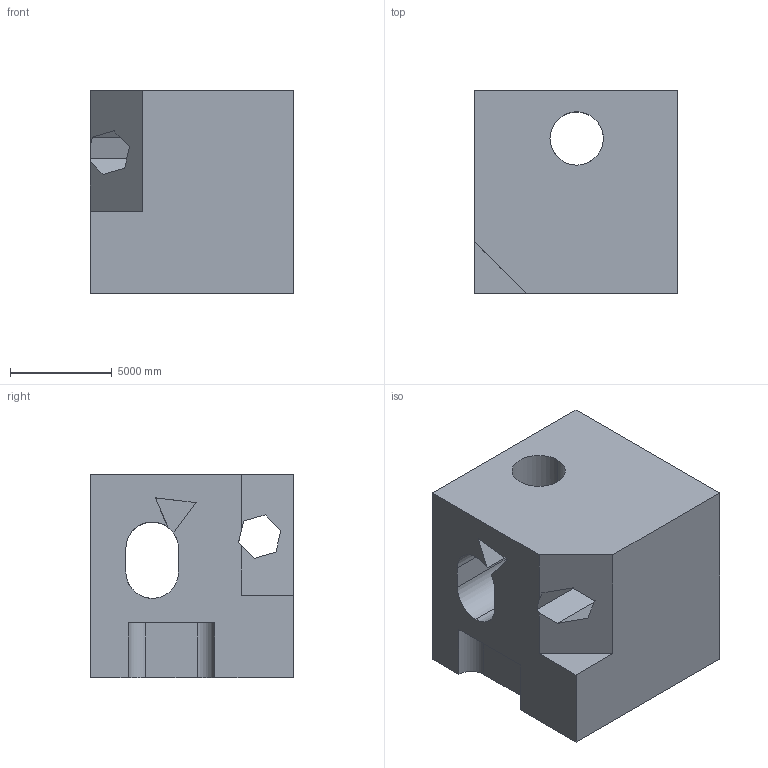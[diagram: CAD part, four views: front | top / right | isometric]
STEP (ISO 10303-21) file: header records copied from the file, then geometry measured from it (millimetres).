
FILE_DESCRIPTION (( 'STEP AP203' ), '1' );
FILE_NAME ('560.STEP', '2022-07-29T11:49:26', ( 'user' ), ( '' ), 'SwSTEP 2.0', 'SolidWorks 2021', '' );
FILE_SCHEMA (( 'CONFIG_CONTROL_DESIGN' ));
Length unit declared in the file: centimetre
Products named in the file (1): 560
Bounding box: 10000 x 10000 x 10000 mm (x, y, z)
Volume: 806741504937.1 mm3; surface area: 808854688.8 mm2
Topology: 1 solids, 1 shells, 32 faces, 102 edges, 68 vertices
Faces by surface type: plane 23, cylinder 9
Entity records: 1730 total; most frequent: CARTESIAN_POINT 736, ORIENTED_EDGE 204, DIRECTION 174, EDGE_CURVE 102, LINE 76, VECTOR 76, VERTEX_POINT 68, AXIS2_PLACEMENT_3D 49
